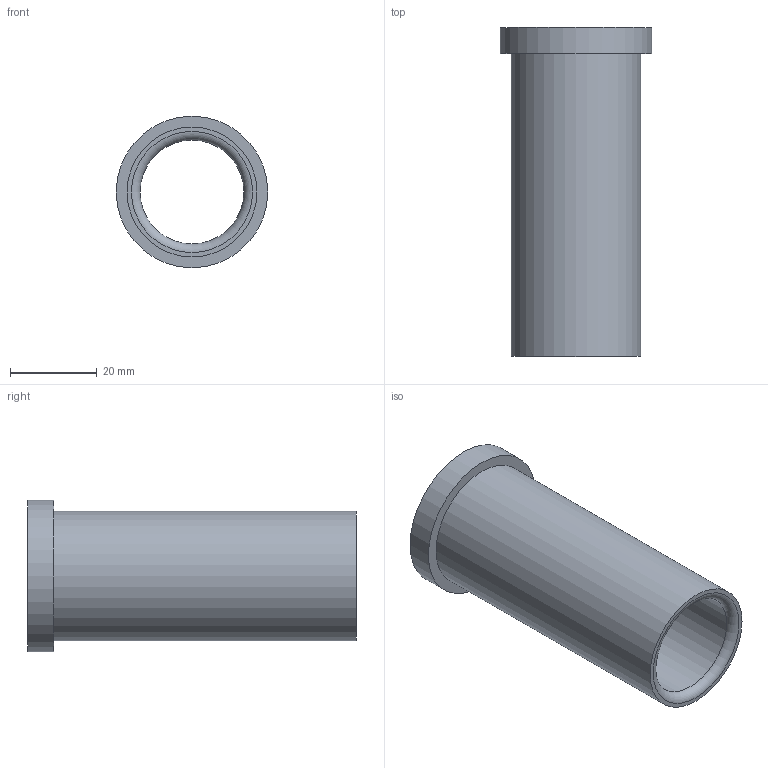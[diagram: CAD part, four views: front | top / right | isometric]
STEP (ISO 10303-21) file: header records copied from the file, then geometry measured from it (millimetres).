
FILE_DESCRIPTION(/* description */ ('STEP AP214'),/* implementation_level */ '2;1');
FILE_NAME(/* name */ '03_12_17853',/* time_stamp */ '2023-06-15T11:35:36+02:00',/* author */ ('License CC BY-ND 4.0'),/* organization */ ('CADENAS'),/* preprocessor_version */ 'ST-DEVELOPER v19.3',/* originating_system */ 'PARTsolutions',/* authorisation */ ' ');
FILE_SCHEMA (('AUTOMOTIVE_DESIGN {1 0 10303 214 3 1 1}'));
Length unit declared in the file: millimetre
Products named in the file (1): VA_Bushing_17853
Bounding box: 35 x 76 x 35 mm (x, y, z)
Volume: 20387.2 mm3; surface area: 13907.9 mm2
Topology: 1 solids, 1 shells, 10 faces, 16 edges, 10 vertices
Faces by surface type: cylinder 4, plane 4, torus 2
Full cylindrical faces by diameter (mm): 24 x1, 24.6 x1, 30 x1, 35 x1
Entity records: 302 total; most frequent: DIRECTION 42, CARTESIAN_POINT 31, AXIS2_PLACEMENT_3D 21, ORIENTED_EDGE 20, EDGE_LOOP 20, FACE_BOUND 20, EDGE_CURVE 10, VERTEX_POINT 10
